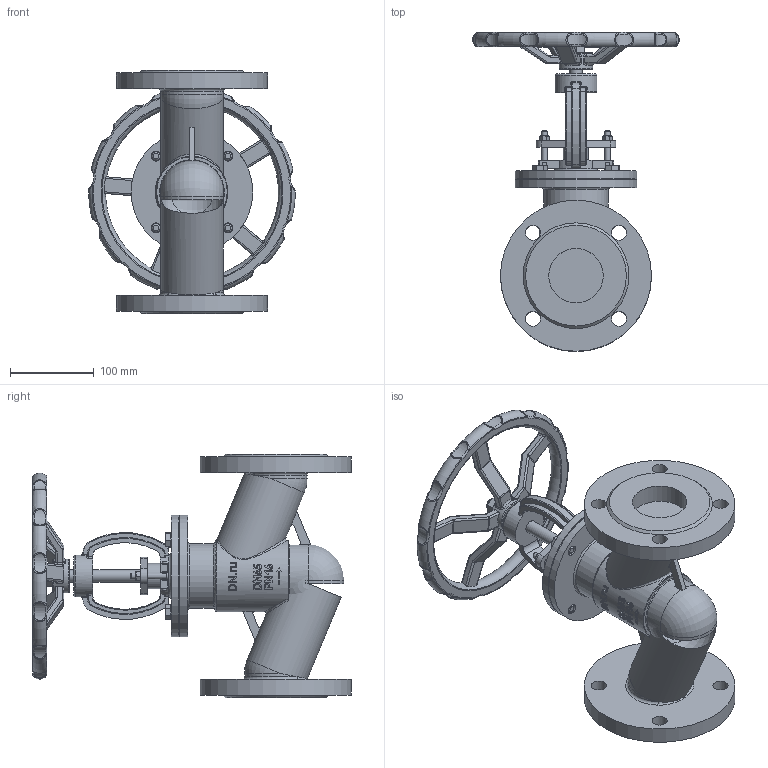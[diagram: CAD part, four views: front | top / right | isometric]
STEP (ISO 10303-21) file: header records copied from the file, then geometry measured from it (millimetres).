
FILE_DESCRIPTION(('STEP AP203'), '1');
FILE_NAME('VSO3131M-F-S 孰囡囗 玎镱痦 DN.ru 捏65 畜16', '2026-04-16T20:00:32', ('R2D2'), (''), 'C3D Converter', 'C3D Toolkit', '');
FILE_SCHEMA(('CONFIG_CONTROL_DESIGN'));
Length unit declared in the file: millimetre
Products named in the file (1): VSO3131M-F-S
Bounding box: 246.29 x 380 x 290 mm (x, y, z)
Volume: 3545025.5 mm3; surface area: 398026.8 mm2
Topology: 1 solids, 1 shells, 1042 faces, 2494 edges, 1490 vertices
Faces by surface type: plane 297, cylinder 239, torus 155, extrusion 129, bspline 79, sphere 72, cone 71
Full cylindrical faces by diameter (mm): 5 x8, 7 x4, 8 x2, 10 x4, 12 x4, 15 x3, 16 x4, 18 x9, 30 x1, 40 x1, 50 x2, 65 x2, 75 x3, 77 x1, 85 x1, 145 x2, 180 x2
Entity records: 68258 total; most frequent: CARTESIAN_POINT 37179, ORIENTED_EDGE 4782, DIRECTION 4367, EDGE_CURVE 2391, AXIS2_PLACEMENT_3D 1737, VERTEX_POINT 1486, EDGE_LOOP 1221, FACE_BOUND 1094
